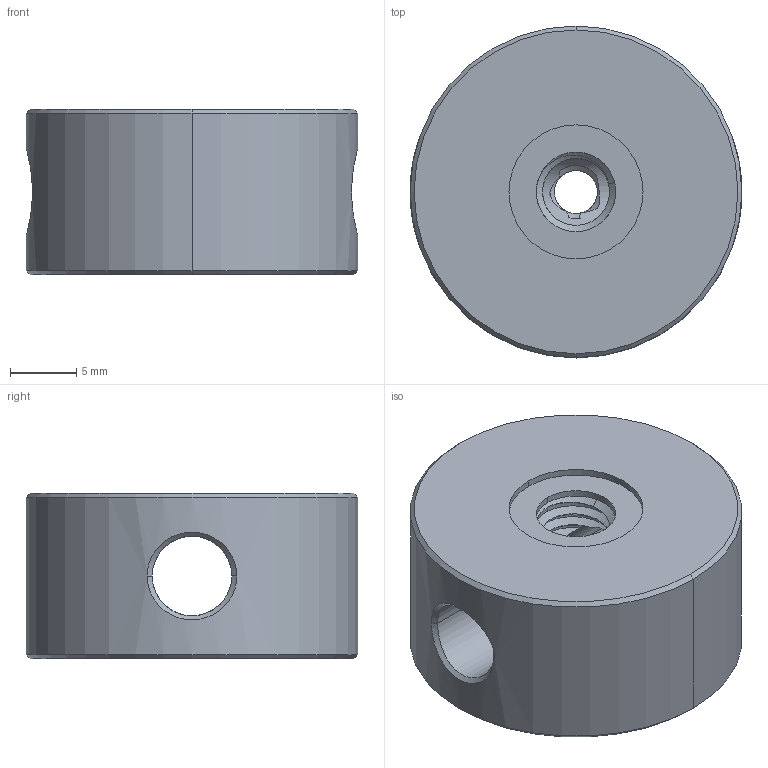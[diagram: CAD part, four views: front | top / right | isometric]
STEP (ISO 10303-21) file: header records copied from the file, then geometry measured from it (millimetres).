
FILE_DESCRIPTION((''),'2;1');
FILE_NAME('PFC-12_5-S2','2022-10-10T',('daizh'),(''),'CREO PARAMETRIC BY PTC INC, 2018360','CREO PARAMETRIC BY PTC INC, 2018360','');
FILE_SCHEMA(('CONFIG_CONTROL_DESIGN'));
Length unit declared in the file: millimetre
Products named in the file (1): PFC-12_5-S2
Bounding box: 25 x 25 x 12.5 mm (x, y, z)
Volume: 5231.6 mm3; surface area: 2422 mm2
Topology: 1 solids, 1 shells, 55 faces, 143 edges, 92 vertices
Faces by surface type: cylinder 25, bspline 20, plane 6, cone 4
Entity records: 4114 total; most frequent: CARTESIAN_POINT 2927, ORIENTED_EDGE 286, DIRECTION 149, EDGE_CURVE 143, VERTEX_POINT 92, B_SPLINE_CURVE_WITH_KNOTS 86, EDGE_LOOP 63, AXIS2_PLACEMENT_3D 57
